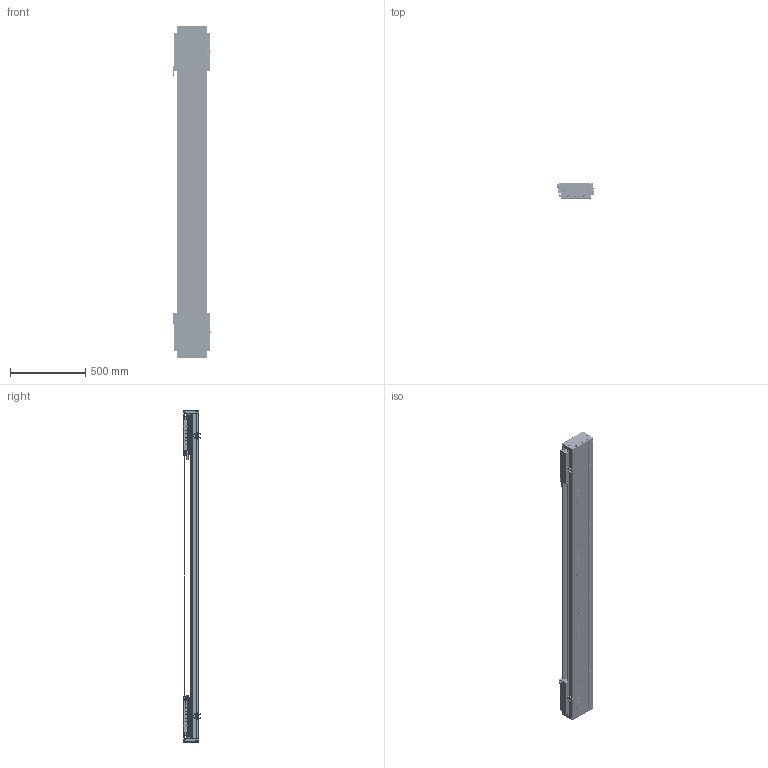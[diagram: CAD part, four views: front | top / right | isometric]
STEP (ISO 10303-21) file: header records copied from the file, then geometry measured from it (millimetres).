
FILE_DESCRIPTION (( 'STEP AP203' ), '1' );
FILE_NAME ('DA-C195-2-C3-T1580-C010-0.2 眻盄萇儂.STEP', '2025-08-15T00:42:32', ( '' ), ( '' ), 'SwSTEP 2.0', 'SolidWorks 2019', '' );
FILE_SCHEMA (( 'CONFIG_CONTROL_DESIGN' ));
Length unit declared in the file: millimetre
Products named in the file (19): DA-C195-GD-DB-H-00 傷啣; CU195-C3賑輸-俋楷; 葩璃 DA95-GT-T-00; LMT黍杅芛; DA95-HXJ-00 遣喳砎蝶; IU-CU195-L-00 菁釱(L2160); IU-CU195-L 菁釱絳寢; DA195詩湍郪璃; DA165-GYP-00 光电感应片(默认); DKW-GYP-ZJ-00 笢潔嫖萇覜茼え; DA195詩湍嶺輸; PM-T45ㄗ侂狟ㄘ; DA195詩湍菜輸; PM-Y65嫖萇羲壽郪璃; MS200 棠掑喜S315-T240; DKW-KGZ-ZJ-00 中间光电开关支架; DA-C195-2-C3-T1580-C010-0.2 眻盄萇儂; DKW168-HXJ-ZJ-00 笢潔滅袉砎蝶; DA195詩湍裔啣
Assembly tree (37 placements, depth 3):
  DA-C195-2-C3-T1580-C010-0.2 眻盄萇儂
    DA195詩湍郪璃
      DA195詩湍菜輸  x2
      DA195詩湍裔啣
      DA195詩湍嶺輸  x2
      DA95-HXJ-00 遣喳砎蝶  x8
      DA-C195-GD-DB-H-00 傷啣  x2
    IU-CU195-L 菁釱絳寢
      IU-CU195-L-00 菁釱(L2160)
      葩璃 DA95-GT-T-00  x4
    LMT黍杅芛  x2
    MS200 棠掑喜S315-T240
    PM-T45ㄗ侂狟ㄘ  x4
    DA165-GYP-00 光电感应片(默认)  x2
    PM-Y65嫖萇羲壽郪璃
    DKW168-HXJ-ZJ-00 笢潔滅袉砎蝶
    DKW-GYP-ZJ-00 笢潔嫖萇覜茼え
    DKW-KGZ-ZJ-00 中间光电开关支架
    CU195-C3賑輸-俋楷  x2
Bounding box: 258.2 x 115.45 x 2200 mm (x, y, z)
Volume: 14910266.1 mm3; surface area: 4223825.6 mm2
Topology: 154 solids, 218 shells, 6709 faces, 17727 edges, 11013 vertices
Faces by surface type: cylinder 3114, plane 2543, cone 884, torus 88, sphere 72, bspline 8
Entity records: 140239 total; most frequent: CARTESIAN_POINT 36181, ORIENTED_EDGE 21470, DIRECTION 20880, EDGE_CURVE 10735, AXIS2_PLACEMENT_3D 7669, VERTEX_POINT 6938, LINE 5542, VECTOR 5542
